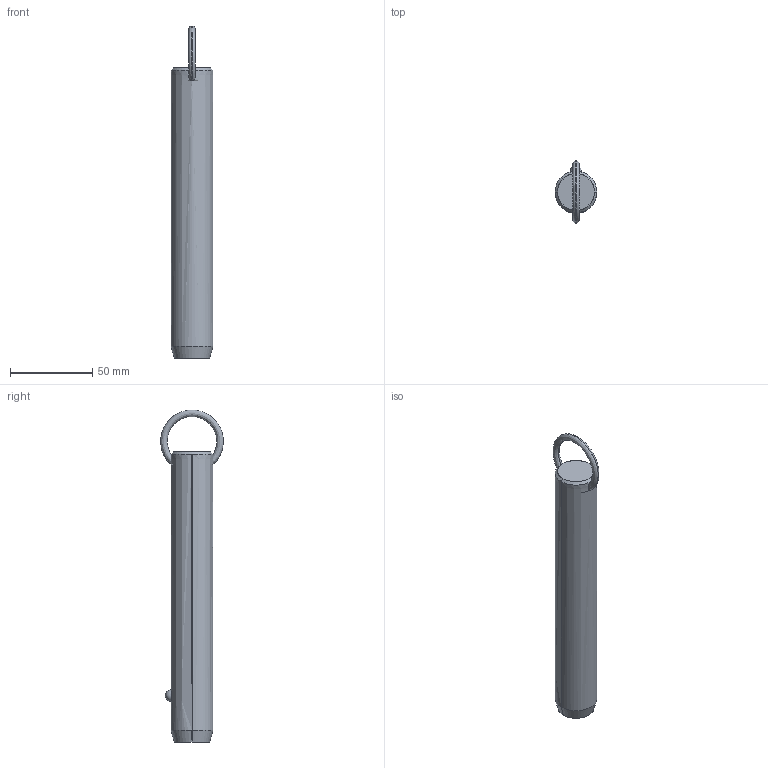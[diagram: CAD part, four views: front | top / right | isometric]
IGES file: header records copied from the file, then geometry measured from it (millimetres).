
Start section: SolidWorks IGES file using analytic representation for surfaces
Global section: file name: C:\Users\liam_\OneDrive\Documents\WORK\Work for WixRoyd\Job Files\J-00019 - Matt Davis CAD Checking\04. CAD Drawings\automotion20190605\P1250.2_v2\P1250.2_v2_20190729_IGES\P1250.100-520.igs; native system: SolidWorks 2017; preprocessor: SolidWorks 2017; author: liam_; date: 190730.174143; units: millimetre
Bounding box: 25.4 x 38.1 x 201.8 mm (x, y, z)
Surface area: 15849.4 mm2 (no closed solid volume)
Topology: 0 solids, 0 shells, 12 faces, 298 edges, 296 vertices
Faces by surface type: revolution 8, bspline 4
